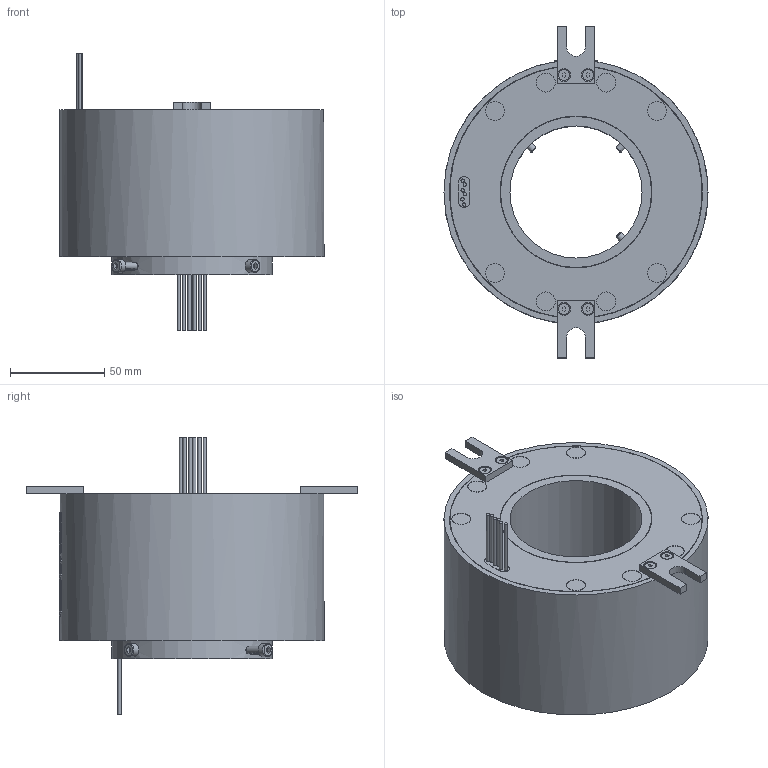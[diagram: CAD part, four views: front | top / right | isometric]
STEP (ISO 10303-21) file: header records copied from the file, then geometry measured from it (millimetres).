
FILE_DESCRIPTION(/* description */ (''),/* implementation_level */ '2;1');
FILE_NAME(/* name */ 'HDF70140-0610-3D模型.stp',/* time_stamp */ '2025-09-12T09:48:09+08:00',/* author */ (''),/* organization */ (''),/* preprocessor_version */ 'ST-DEVELOPER v16.7',/* originating_system */ 'SIEMENS PLM Software NX 12.0',/* authorisation */ '');
FILE_SCHEMA (('AUTOMOTIVE_DESIGN { 1 0 10303 214 3 1 1 1 }'));
Length unit declared in the file: millimetre
Products named in the file (1): Admi2290F644g9aa
Bounding box: 140 x 176 x 147 mm (x, y, z)
Volume: 922978.4 mm3; surface area: 86611.9 mm2
Topology: 1 solids, 5 shells, 793 faces, 2096 edges, 1397 vertices
Faces by surface type: plane 356, extrusion 313, cylinder 75, bspline 30, cone 15, torus 4
Full cylindrical faces by diameter (mm): 1.8 x12, 3 x4, 3.4 x1, 3.5 x4, 4 x7, 6 x4, 7 x4, 10 x8, 70 x1, 80 x1, 80.5 x1, 85 x1, 133.8 x2, 134 x2, 140 x1
Entity records: 29914 total; most frequent: CARTESIAN_POINT 13249, ORIENTED_EDGE 3950, DIRECTION 2149, EDGE_CURVE 1975, B_SPLINE_CURVE_WITH_KNOTS 1644, VERTEX_POINT 1352, EDGE_LOOP 961, ADVANCED_FACE 790
